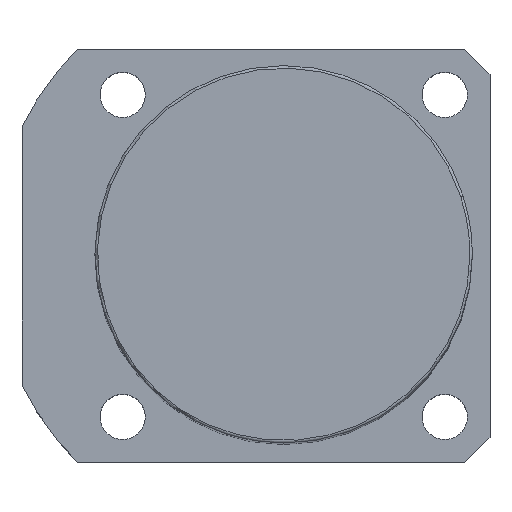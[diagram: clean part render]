
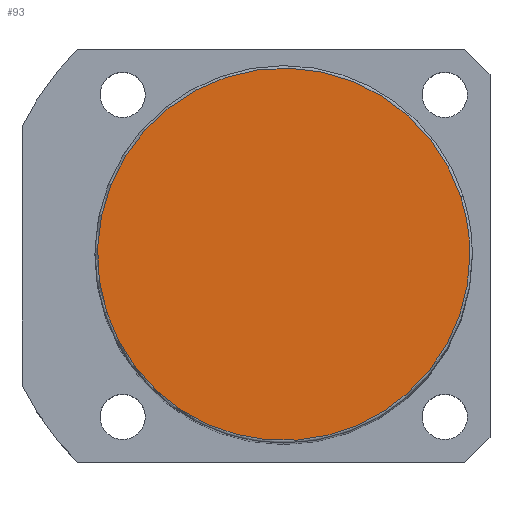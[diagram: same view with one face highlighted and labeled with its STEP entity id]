
A CAD part, top view. The second image highlights one B-rep face of the part: STEP entity #93.
In plain terms, the highlighted planar face has unit normal (0, 0, 1).
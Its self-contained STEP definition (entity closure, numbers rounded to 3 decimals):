
#16=CARTESIAN_POINT('',(35.189,11.434,188.0));
#17=VERTEX_POINT('',#16);
#45=CARTESIAN_POINT('',(-35.189,-11.434,188.0));
#46=VERTEX_POINT('',#45);
#54=CARTESIAN_POINT('',(0.0,0.0,188.0));
#55=DIRECTION('',(0.0,0.0,1.0));
#56=DIRECTION('',(1.0,0.0,0.0));
#57=AXIS2_PLACEMENT_3D('',#54,#55,#56);
#58=CIRCLE('',#57,37.0);
#59=EDGE_CURVE('no 890',#17,#46,#58,.T.);
#69=CARTESIAN_POINT('',(37.0,0.0,188.0));
#70=VERTEX_POINT('',#69);
#71=CARTESIAN_POINT('',(0.0,0.0,188.0));
#72=DIRECTION('',(0.0,0.0,1.0));
#73=DIRECTION('',(1.0,0.0,0.0));
#74=AXIS2_PLACEMENT_3D('',#71,#72,#73);
#75=CIRCLE('',#74,37.0);
#76=EDGE_CURVE('no 899',#70,#17,#75,.T.);
#77=ORIENTED_EDGE('',*,*,#76,.T.);
#78=ORIENTED_EDGE('',*,*,#59,.T.);
#79=CARTESIAN_POINT('',(0.0,0.0,188.0));
#80=DIRECTION('',(0.0,0.0,1.0));
#81=DIRECTION('',(1.0,0.0,0.0));
#82=AXIS2_PLACEMENT_3D('',#79,#80,#81);
#83=CIRCLE('',#82,37.0);
#84=EDGE_CURVE('no 905',#46,#70,#83,.T.);
#85=ORIENTED_EDGE('',*,*,#84,.T.);
#86=EDGE_LOOP('',(#77,#78,#85));
#87=FACE_OUTER_BOUND('',#86,.T.);
#88=CARTESIAN_POINT('',(0.0,0.0,188.0));
#89=DIRECTION('',(0.0,0.0,1.0));
#90=DIRECTION('',(1.0,0.0,0.0));
#91=AXIS2_PLACEMENT_3D('',#88,#89,#90);
#92=PLANE('',#91);
#93=ADVANCED_FACE('no 892',(#87),#92,.T.);
